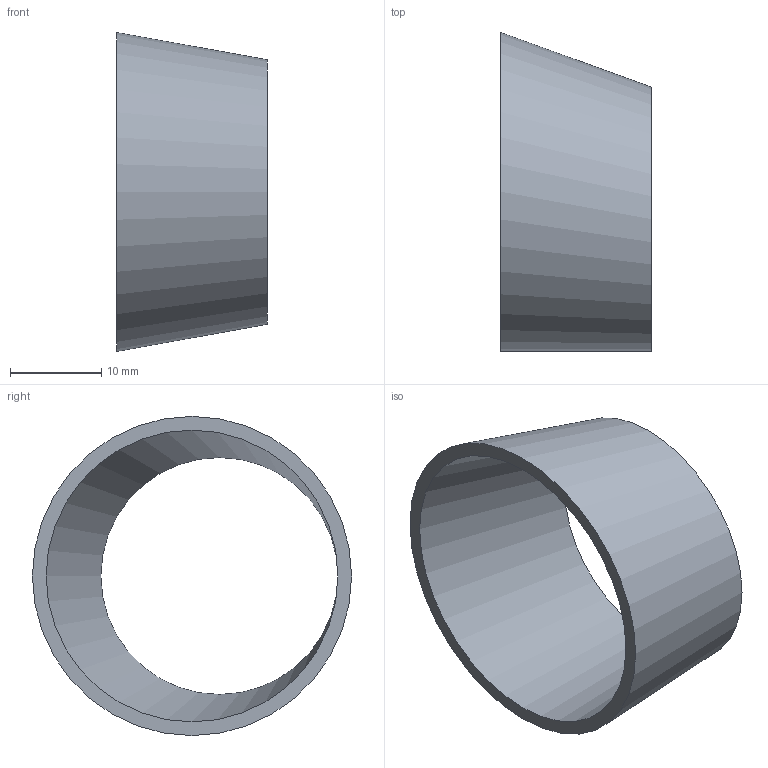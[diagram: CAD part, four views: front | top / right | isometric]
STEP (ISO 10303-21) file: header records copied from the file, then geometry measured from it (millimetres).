
FILE_DESCRIPTION(('FreeCAD Model'),'2;1');
FILE_NAME( '/home/martin/Documents/proyect/accesorios/stp/red-exc_DN32-25.step', '2017-12-31T13:02:43',('Author'),(''), 'Open CASCADE STEP processor 6.8','FreeCAD','Unknown');
FILE_SCHEMA(('AUTOMOTIVE_DESIGN_CC2 { 1 2 10303 214 -1 1 5 4 }'));
Length unit declared in the file: millimetre
Products named in the file (1): red-exc_DN32-25
Bounding box: 16.5 x 35 x 35 mm (x, y, z)
Volume: 2371.5 mm3; surface area: 3526.1 mm2
Topology: 1 solids, 1 shells, 4 faces, 6 edges, 4 vertices
Faces by surface type: bspline 2, plane 2
Entity records: 247 total; most frequent: CARTESIAN_POINT 87, DIRECTION 26, ORIENTED_EDGE 12, PCURVE 12, DEFINITIONAL_REPRESENTATION 12, CIRCLE 8, LINE 8, VECTOR 8
